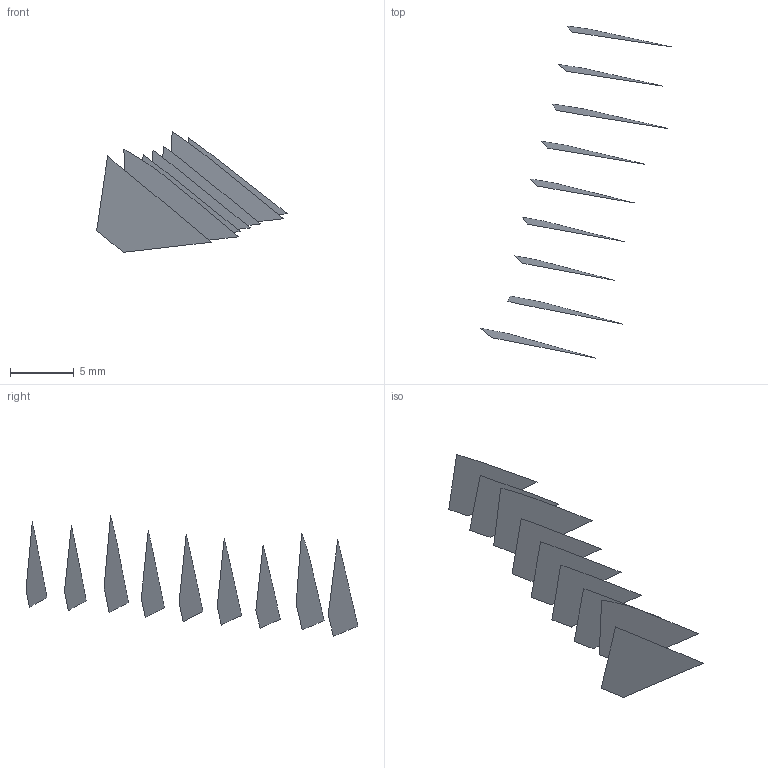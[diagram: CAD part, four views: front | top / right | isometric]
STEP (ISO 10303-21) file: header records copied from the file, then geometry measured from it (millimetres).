
FILE_DESCRIPTION(('FreeCAD Model'),'2;1');
FILE_NAME('Open CASCADE Shape Model','2022-05-22T07:50:26',('FreeCAD'),( 'FreeCAD'),'Open CASCADE STEP processor 7.5','FreeCAD','Unknown');
FILE_SCHEMA(('AUTOMOTIVE_DESIGN { 1 0 10303 214 1 1 1 1 }'));
Length unit declared in the file: millimetre
Products named in the file (10): Open CASCADE STEP translator 7.5 34; Open CASCADE STEP translator 7.5 34.1; Open CASCADE STEP translator 7.5 34.2; Open CASCADE STEP translator 7.5 34.3; Open CASCADE STEP translator 7.5 34.4; Open CASCADE STEP translator 7.5 34.5; Open CASCADE STEP translator 7.5 34.6; Open CASCADE STEP translator 7.5 34.7; Open CASCADE STEP translator 7.5 34.8; Open CASCADE STEP translator 7.5 34.9
Assembly tree (9 placements, depth 2):
  Open CASCADE STEP translator 7.5 34
    Open CASCADE STEP translator 7.5 34.1
    Open CASCADE STEP translator 7.5 34.2
    Open CASCADE STEP translator 7.5 34.3
    Open CASCADE STEP translator 7.5 34.4
    Open CASCADE STEP translator 7.5 34.5
    Open CASCADE STEP translator 7.5 34.6
    Open CASCADE STEP translator 7.5 34.7
    Open CASCADE STEP translator 7.5 34.8
    Open CASCADE STEP translator 7.5 34.9
Bounding box: 14.97 x 26.07 x 9.47 mm (x, y, z)
Surface area: 270.8 mm2 (no closed solid volume)
Topology: 0 solids, 9 shells, 9 faces, 101 edges, 101 vertices
Faces by surface type: bspline 9
Entity records: 1581 total; most frequent: CARTESIAN_POINT 551, B_SPLINE_CURVE_WITH_KNOTS 202, ORIENTED_EDGE 101, EDGE_CURVE 101, VERTEX_POINT 101, SURFACE_CURVE 101, PCURVE 101, DEFINITIONAL_REPRESENTATION 101
